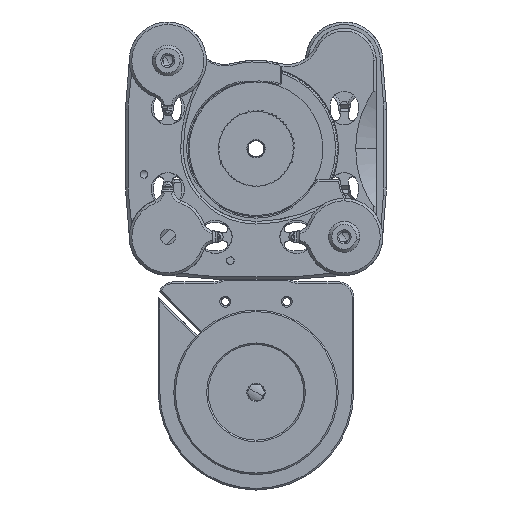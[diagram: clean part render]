
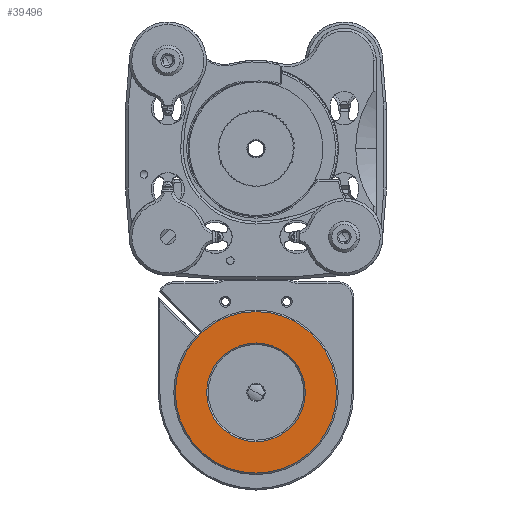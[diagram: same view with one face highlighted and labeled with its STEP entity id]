
A CAD part, front view. The second image highlights one B-rep face of the part: STEP entity #39496.
In plain terms, the highlighted planar face has unit normal (0, -1, 0).
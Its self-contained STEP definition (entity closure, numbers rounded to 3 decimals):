
#530 = VERTEX_POINT ( 'NONE', #68918 ) ;
#785 = AXIS2_PLACEMENT_3D ( 'NONE', #14383, #31979, #67317 ) ;
#3847 = CIRCLE ( 'NONE', #63846, 15.7 ) ;
#5852 = PLANE ( 'NONE',  #37891 ) ;
#8417 = AXIS2_PLACEMENT_3D ( 'NONE', #109836, #15268, #48904 ) ;
#8689 = DIRECTION ( 'NONE',  ( 0., 0., 1. ) ) ;
#12121 = VERTEX_POINT ( 'NONE', #58936 ) ;
#14383 = CARTESIAN_POINT ( 'NONE',  ( 0., -236.737, 0. ) ) ;
#15268 = DIRECTION ( 'NONE',  ( 0., 1., 0. ) ) ;
#20110 = CARTESIAN_POINT ( 'NONE',  ( 0., -236.737, -15.7 ) ) ;
#25185 = CARTESIAN_POINT ( 'NONE',  ( 0., -236.737, 0. ) ) ;
#27580 = AXIS2_PLACEMENT_3D ( 'NONE', #41149, #109531, #32578 ) ;
#31979 = DIRECTION ( 'NONE',  ( 0., -1., 0. ) ) ;
#32012 = CIRCLE ( 'NONE', #8417, 9.6 ) ;
#32559 = DIRECTION ( 'NONE',  ( 0., 1., 0. ) ) ;
#32578 = DIRECTION ( 'NONE',  ( 0., 0., 1. ) ) ;
#35740 = ORIENTED_EDGE ( 'NONE', *, *, #97302, .T. ) ;
#36533 = VERTEX_POINT ( 'NONE', #20110 ) ;
#37891 = AXIS2_PLACEMENT_3D ( 'NONE', #110654, #32559, #67331 ) ;
#39106 = ORIENTED_EDGE ( 'NONE', *, *, #73865, .T. ) ;
#39496 = ADVANCED_FACE ( 'NONE', ( #92403, #83849 ), #5852, .F. ) ;
#41149 = CARTESIAN_POINT ( 'NONE',  ( 0., -236.737, 0. ) ) ;
#46357 = EDGE_LOOP ( 'NONE', ( #39106, #35740 ) ) ;
#48904 = DIRECTION ( 'NONE',  ( 0., 0., 1. ) ) ;
#49870 = CIRCLE ( 'NONE', #785, 15.7 ) ;
#58936 = CARTESIAN_POINT ( 'NONE',  ( 0., -236.737, 15.7 ) ) ;
#61673 = DIRECTION ( 'NONE',  ( 0., -1., 0. ) ) ;
#63846 = AXIS2_PLACEMENT_3D ( 'NONE', #25185, #61673, #8689 ) ;
#65176 = VERTEX_POINT ( 'NONE', #107651 ) ;
#67317 = DIRECTION ( 'NONE',  ( 0., 0., 1. ) ) ;
#67331 = DIRECTION ( 'NONE',  ( 1., 0., 0. ) ) ;
#68918 = CARTESIAN_POINT ( 'NONE',  ( 0., -236.737, -9.6 ) ) ;
#73865 = EDGE_CURVE ( 'NONE', #12121, #36533, #3847, .T. ) ;
#78521 = CIRCLE ( 'NONE', #27580, 9.6 ) ;
#83849 = FACE_OUTER_BOUND ( 'NONE', #46357, .T. ) ;
#86375 = ORIENTED_EDGE ( 'NONE', *, *, #101592, .T. ) ;
#89345 = EDGE_CURVE ( 'NONE', #65176, #530, #78521, .T. ) ;
#92403 = FACE_BOUND ( 'NONE', #106034, .T. ) ;
#97302 = EDGE_CURVE ( 'NONE', #36533, #12121, #49870, .T. ) ;
#101592 = EDGE_CURVE ( 'NONE', #530, #65176, #32012, .T. ) ;
#104514 = ORIENTED_EDGE ( 'NONE', *, *, #89345, .T. ) ;
#106034 = EDGE_LOOP ( 'NONE', ( #86375, #104514 ) ) ;
#107651 = CARTESIAN_POINT ( 'NONE',  ( 0., -236.737, 9.6 ) ) ;
#109531 = DIRECTION ( 'NONE',  ( 0., 1., 0. ) ) ;
#109836 = CARTESIAN_POINT ( 'NONE',  ( 0., -236.737, 0. ) ) ;
#110654 = CARTESIAN_POINT ( 'NONE',  ( 0., -236.737, 0. ) ) ;
